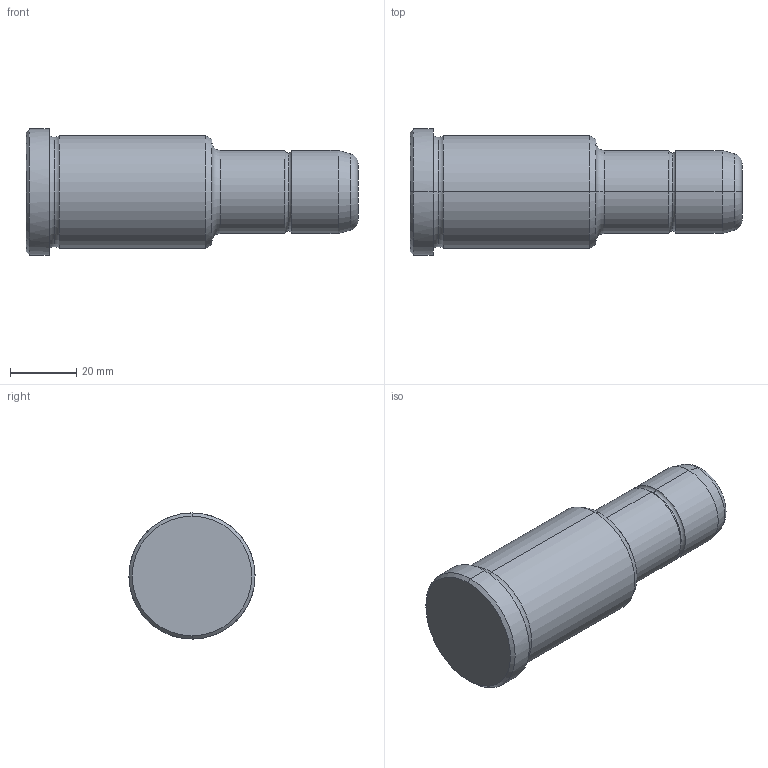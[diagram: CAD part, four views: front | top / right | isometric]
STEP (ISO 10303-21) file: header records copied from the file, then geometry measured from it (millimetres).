
FILE_DESCRIPTION(('CATIA V5 STEP Exchange'),'2;1');
FILE_NAME('C:\Users\Utente\Desktop\IO LAVORO\3D X SITO CF\X SITO\PLASTICA\351\351-25X56X100.stp','2021-09-07T10:21:24+00:00',('none'),('none'),'CATIA Version 5 Release 20 GA (IN-10)','CATIA V5 STEP AP203','none');
FILE_SCHEMA(('CONFIG_CONTROL_DESIGN'));
Length unit declared in the file: millimetre
Products named in the file (1): 351-25X56X100
Bounding box: 100 x 38 x 38 mm (x, y, z)
Volume: 73327.5 mm3; surface area: 11432.3 mm2
Topology: 1 solids, 1 shells, 30 faces, 86 edges, 60 vertices
Faces by surface type: torus 12, cylinder 8, cone 6, plane 4
Entity records: 1112 total; most frequent: CARTESIAN_POINT 289, ORIENTED_EDGE 172, DIRECTION 138, AXIS2_PLACEMENT_3D 95, EDGE_CURVE 86, CIRCLE 64, VERTEX_POINT 60, EDGE_LOOP 32
